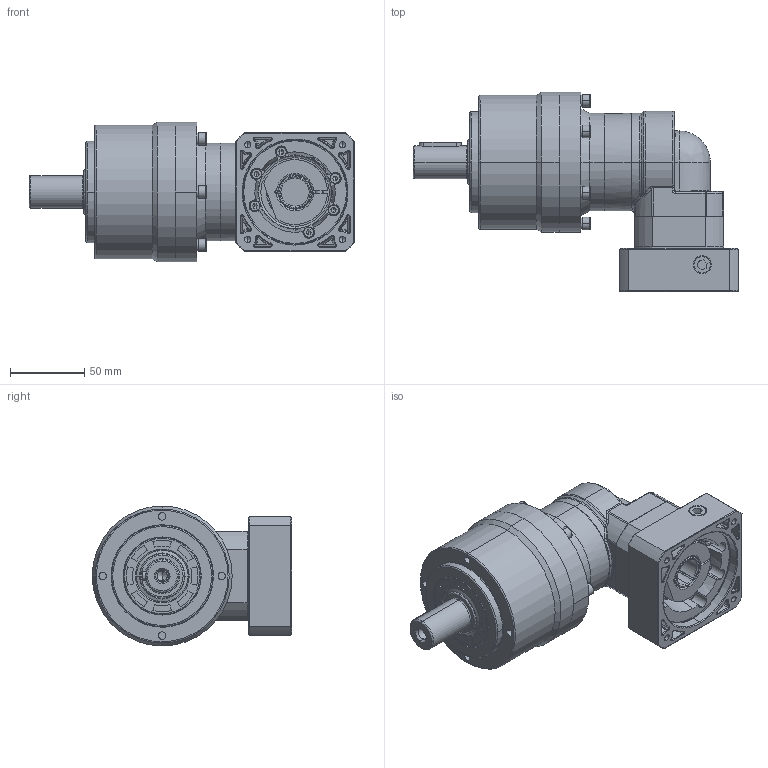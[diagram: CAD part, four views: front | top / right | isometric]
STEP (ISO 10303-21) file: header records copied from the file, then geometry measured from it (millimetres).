
FILE_DESCRIPTION (( 'STEP AP214' ), '1' );
FILE_NAME ('EVL090-L2-S2-P1 19-70-90-M5-42.5.STEP', '2025-02-14T06:53:29', ( '微软用户' ), ( '微软中国' ), 'SwSTEP 2.0', 'SolidWorks 2021', '' );
FILE_SCHEMA (( 'AUTOMOTIVE_DESIGN' ));
Length unit declared in the file: millimetre
Products named in the file (4): VRL090M1-L2-S2-19-70-90-M5-42.5.STEP; EVL090-L2-S2-P1 19-70-90-M5-42.5; EVT060D-L2-8-38.1-66.7-M4-33.STEP; 3.EVT064F_________step_stp_stp.stp.STEP
Assembly tree (7 placements, depth 2):
  EVL090-L2-S2-P1 19-70-90-M5-42.5
    VRL090M1-L2-S2-19-70-90-M5-42.5.STEP
    3.EVT064F_________step_stp_stp.stp.STEP
    EVT060D-L2-8-38.1-66.7-M4-33.STEP  x5
Bounding box: 218.52 x 134.02 x 94 mm (x, y, z)
Volume: 92087 mm3; surface area: 177809.5 mm2
Topology: 1 solids, 47 shells, 1522 faces, 3795 edges, 2389 vertices
Faces by surface type: cylinder 535, plane 430, bspline 314, cone 239, torus 4
Entity records: 75689 total; most frequent: CARTESIAN_POINT 45357, ORIENTED_EDGE 6662, DIRECTION 5550, EDGE_CURVE 3380, AXIS2_PLACEMENT_3D 2214, VERTEX_POINT 2165, EDGE_LOOP 1568, FACE_OUTER_BOUND 1390
